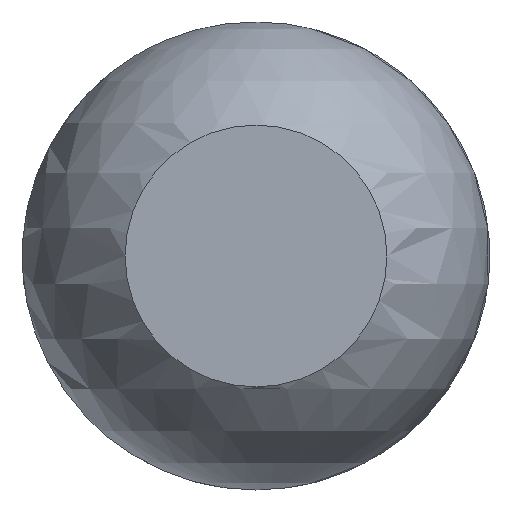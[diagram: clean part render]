
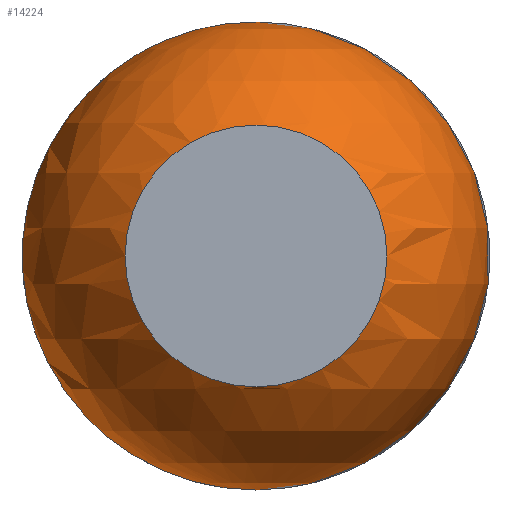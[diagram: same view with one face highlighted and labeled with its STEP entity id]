
A CAD part, left-side view. The second image highlights one B-rep face of the part: STEP entity #14224.
In plain terms, the highlighted spherical face has radius 18.326 mm.
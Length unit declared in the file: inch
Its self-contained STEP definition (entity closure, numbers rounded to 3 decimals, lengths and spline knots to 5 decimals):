
#46=SPHERICAL_SURFACE('',#15111,0.7215);
#198=FACE_BOUND('',#2588,.T.);
#199=FACE_BOUND('',#2589,.T.);
#2588=EDGE_LOOP('',(#13287));
#2589=EDGE_LOOP('',(#13288));
#4994=CIRCLE('',#15109,0.45167);
#4995=CIRCLE('',#15112,0.4038);
#7069=VERTEX_POINT('',#33211);
#7070=VERTEX_POINT('',#33215);
#9142=EDGE_CURVE('',#7069,#7069,#4994,.T.);
#9143=EDGE_CURVE('',#7070,#7070,#4995,.T.);
#13287=ORIENTED_EDGE('',*,*,#9143,.T.);
#13288=ORIENTED_EDGE('',*,*,#9142,.F.);
#14224=ADVANCED_FACE('',(#198,#199),#46,.T.);
#15109=AXIS2_PLACEMENT_3D('',#33212,#17811,#17812);
#15111=AXIS2_PLACEMENT_3D('',#33214,#17815,#17816);
#15112=AXIS2_PLACEMENT_3D('',#33216,#17817,#17818);
#17811=DIRECTION('center_axis',(1.,0.,0.));
#17812=DIRECTION('ref_axis',(0.,0.,-1.));
#17815=DIRECTION('center_axis',(0.,0.,1.));
#17816=DIRECTION('ref_axis',(1.,0.,0.));
#17817=DIRECTION('center_axis',(1.,0.,0.));
#17818=DIRECTION('ref_axis',(0.,0.,-1.));
#33211=CARTESIAN_POINT('',(-92.86011,-81.52687,0.));
#33212=CARTESIAN_POINT('Origin',(-92.86011,-81.97854,0.));
#33214=CARTESIAN_POINT('Origin',(-93.42274,-81.97854,0.));
#33215=CARTESIAN_POINT('',(-94.02066,-81.57473,0.));
#33216=CARTESIAN_POINT('Origin',(-94.02066,-81.97854,0.));
